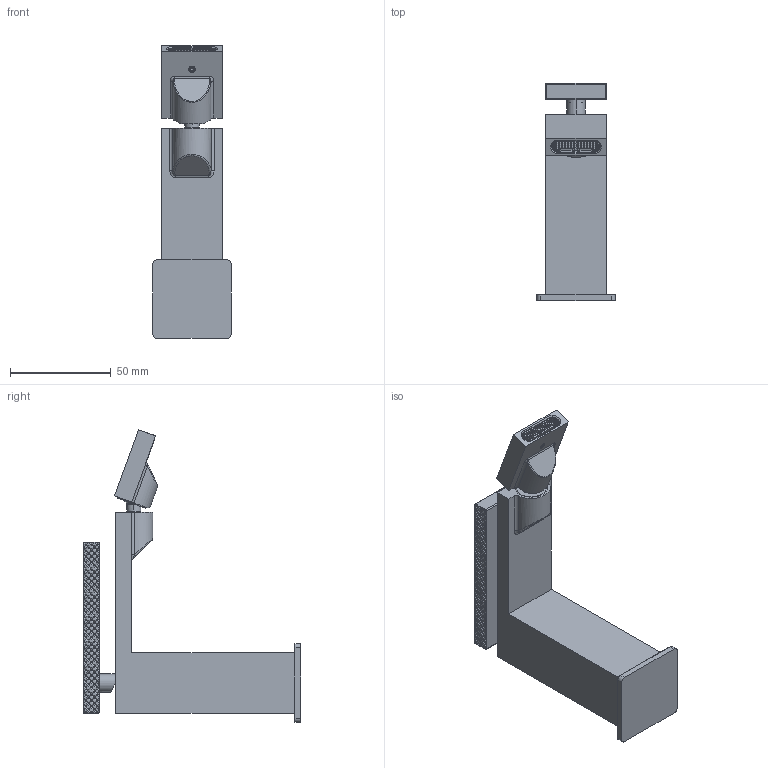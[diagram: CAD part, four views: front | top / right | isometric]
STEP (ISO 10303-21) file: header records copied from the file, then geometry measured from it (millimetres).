
FILE_DESCRIPTION((''),'2;1');
FILE_NAME('49000P708WF00000_SW0002','2023-05-09T17:02:37',('matteo.follador'),(''),'CREO PARAMETRIC BY PTC INC, 2020281','CREO PARAMETRIC BY PTC INC, 2020281','');
FILE_SCHEMA(('AUTOMOTIVE_DESIGN { 1 0 10303 214 1 1 1 1 }'));
Products named in the file (1): 49000P708WF00000_SW0002
Bounding box: 39 x 108 x 145.45 mm (x, y, z)
Volume: 128539 mm3; surface area: 40896.2 mm2
Topology: 3 solids, 3 shells, 3671 faces, 8451 edges, 4747 vertices
Faces by surface type: plane 2238, cylinder 820, bspline 313, torus 171, cone 111, sphere 18
Entity records: 211881 total; most frequent: CARTESIAN_POINT 108439, ORIENTED_EDGE 16866, DIRECTION 14317, EDGE_CURVE 8433, VECTOR 5270, LINE 5270, VERTEX_POINT 4747, AXIS2_PLACEMENT_3D 4522
